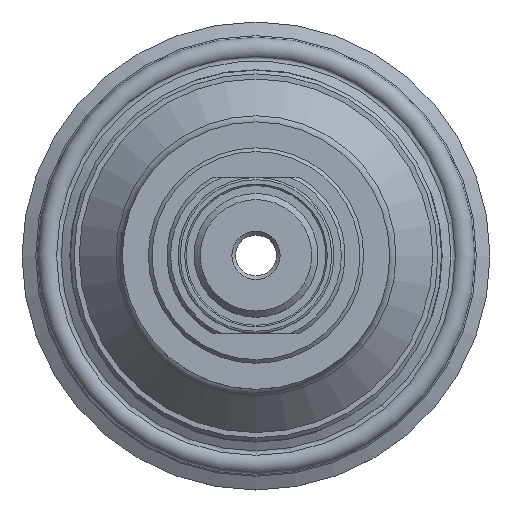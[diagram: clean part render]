
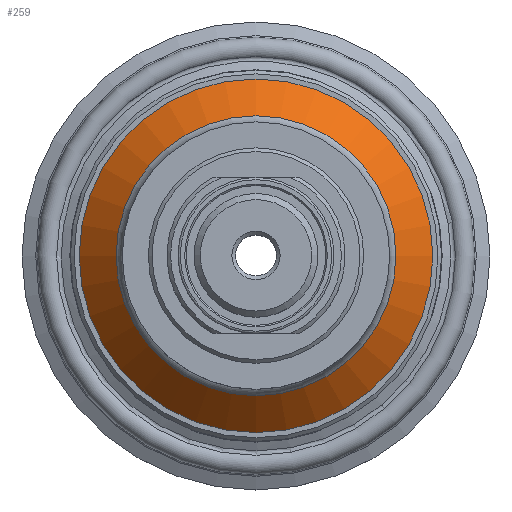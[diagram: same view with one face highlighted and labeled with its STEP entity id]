
A CAD part, top view. The second image highlights one B-rep face of the part: STEP entity #259.
In plain terms, the highlighted conical face has half-angle 43.999 degrees and reference radius 18.842 mm.
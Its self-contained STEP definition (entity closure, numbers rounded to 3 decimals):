
#259 = ADVANCED_FACE( '', ( #614, #615 ), #616, .T. );
#614 = FACE_OUTER_BOUND( '', #1928, .T. );
#615 = FACE_BOUND( '', #1929, .T. );
#616 = CONICAL_SURFACE( '', #1930, 18.842, 0.768 );
#1928 = EDGE_LOOP( '', ( #4372 ) );
#1929 = EDGE_LOOP( '', ( #4373 ) );
#1930 = AXIS2_PLACEMENT_3D( '', #4374, #4375, #4376 );
#4372 = ORIENTED_EDGE( '', *, *, #5027, .T. );
#4373 = ORIENTED_EDGE( '', *, *, #4928, .F. );
#4374 = CARTESIAN_POINT( '', ( 0., 0., -1.849 ) );
#4375 = DIRECTION( '', ( 0., 0., -1. ) );
#4376 = DIRECTION( '', ( -1., 0., 0. ) );
#4928 = EDGE_CURVE( '', #5319, #5319, #5320, .T. );
#5027 = EDGE_CURVE( '', #5473, #5473, #5474, .T. );
#5319 = VERTEX_POINT( '', #6235 );
#5320 = CIRCLE( '', #6236, 18.842 );
#5473 = VERTEX_POINT( '', #7080 );
#5474 = CIRCLE( '', #7081, 23.802 );
#6235 = CARTESIAN_POINT( '', ( 18.842, 0., -1.849 ) );
#6236 = AXIS2_PLACEMENT_3D( '', #8255, #8256, #8257 );
#7080 = CARTESIAN_POINT( '', ( 23.802, 0., -6.985 ) );
#7081 = AXIS2_PLACEMENT_3D( '', #8378, #8379, #8380 );
#8255 = CARTESIAN_POINT( '', ( 0., 0., -1.849 ) );
#8256 = DIRECTION( '', ( 0., 0., 1. ) );
#8257 = DIRECTION( '', ( 1., 0., 0. ) );
#8378 = CARTESIAN_POINT( '', ( 0., 0., -6.985 ) );
#8379 = DIRECTION( '', ( 0., 0., 1. ) );
#8380 = DIRECTION( '', ( 1., 0., 0. ) );
